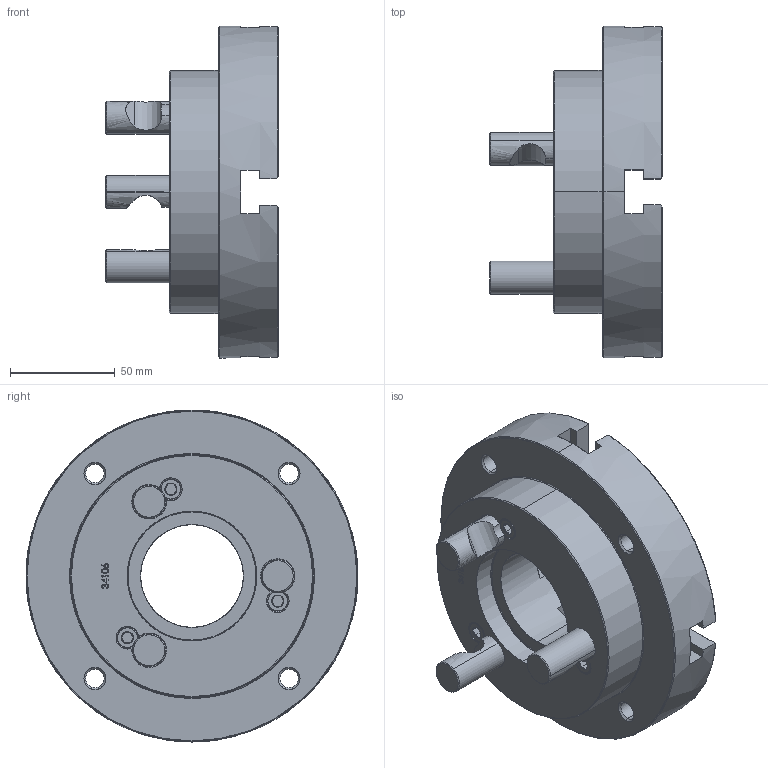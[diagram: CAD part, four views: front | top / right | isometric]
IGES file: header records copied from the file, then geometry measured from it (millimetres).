
Start section: SolidWorks IGES file using analytic representation for surfaces
Global section: file name: R:\Drawings\Files saved as other types\Solid_Models\MODELS FOR PUBLIC\34106_6-INCH_FACE_PLATE_D1_TYPE.IGS; native system: SolidWorks 2012; preprocessor: SolidWorks 2012; author: rtooley; date: 150226.154426; units: millimetre
Bounding box: 82.59 x 158.75 x 158.75 mm (x, y, z)
Surface area: 93116.3 mm2 (no closed solid volume)
Topology: 0 solids, 0 shells, 495 faces, 8392 edges, 8380 vertices
Faces by surface type: revolution 311, bspline 184
